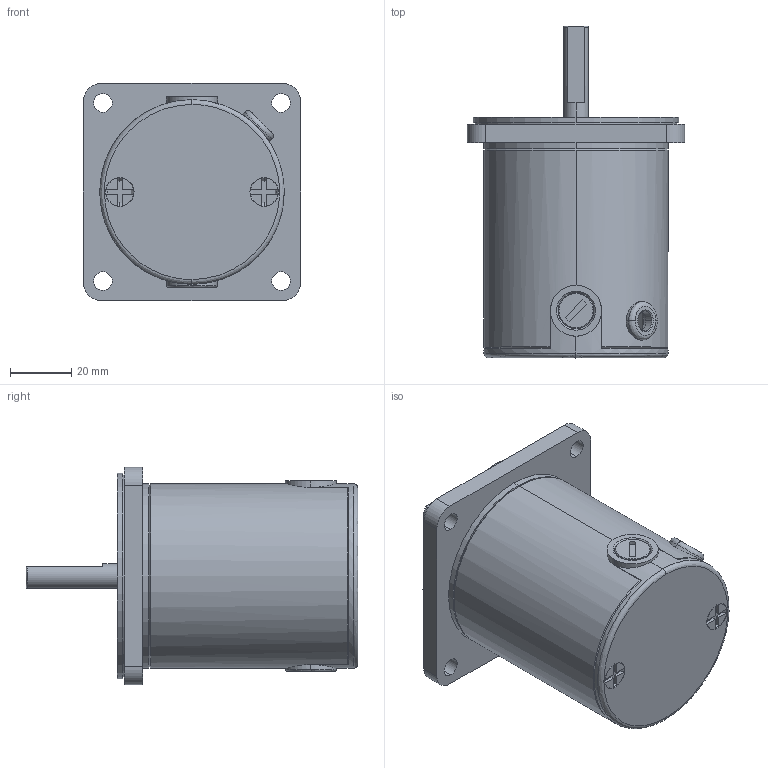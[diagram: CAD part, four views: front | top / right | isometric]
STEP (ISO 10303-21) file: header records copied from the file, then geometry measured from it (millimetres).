
FILE_DESCRIPTION (( 'STEP AP214' ), '1' );
FILE_NAME ('Z3D15W俋离65儂褲嫖萇儂.STEP', '2021-07-29T01:56:13', ( '' ), ( '' ), 'SwSTEP 2.0', 'SolidWorks 2021', '' );
FILE_SCHEMA (( 'AUTOMOTIVE_DESIGN' ));
Length unit declared in the file: millimetre
Products named in the file (6): 蚾饜极21^60 65儂褲俋离; Z3D15W俋离65儂褲嫖萇儂; z3d25-12gn-30s-019-00001m; 俋离蹟隊; PRT0001; 儂褲俋离65
Assembly tree (6 placements, depth 3):
  Z3D15W俋离65儂褲嫖萇儂
    蚾饜极21^60 65儂褲俋离
      儂褲俋离65
      PRT0001
    俋离蹟隊  x2
    z3d25-12gn-30s-019-00001m
Bounding box: 70.8 x 108 x 70.8 mm (x, y, z)
Volume: 79170.7 mm3; surface area: 50729 mm2
Topology: 8 solids, 8 shells, 222 faces, 553 edges, 360 vertices
Faces by surface type: cylinder 94, plane 94, cone 27, bspline 6, torus 1
Entity records: 7141 total; most frequent: CARTESIAN_POINT 1994, DIRECTION 1074, ORIENTED_EDGE 988, EDGE_CURVE 494, AXIS2_PLACEMENT_3D 421, VERTEX_POINT 322, EDGE_LOOP 240, VECTOR 232
